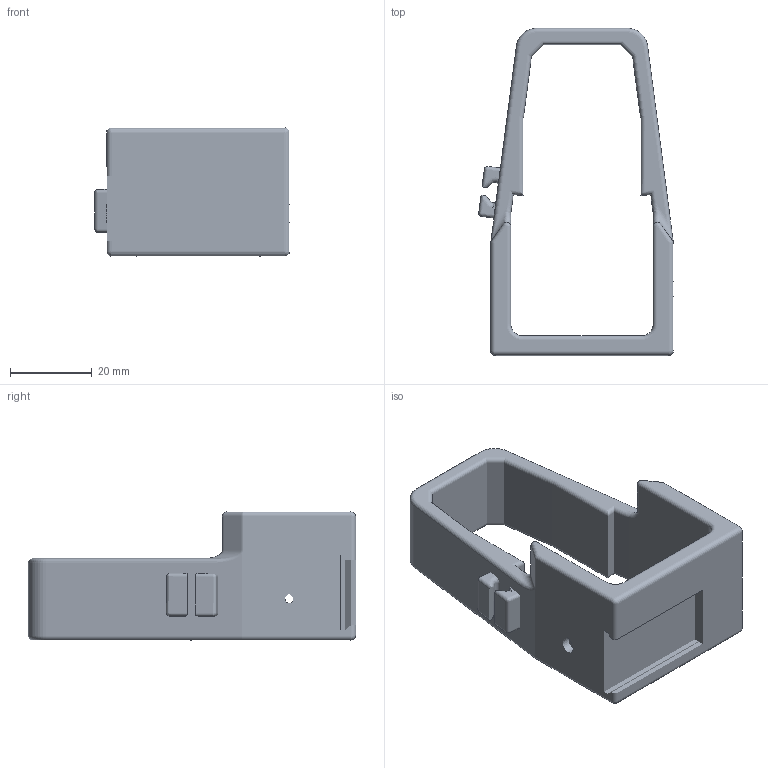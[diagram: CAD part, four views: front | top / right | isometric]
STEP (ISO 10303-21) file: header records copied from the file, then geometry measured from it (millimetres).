
FILE_DESCRIPTION(/* description */ ('STEP AP242 Edition 2','CAx-IF Rec.Pracs.---Representation and Presentation of Product Manufacturing Information (PMI)---4.0---2014-10-13','CAx-IF Rec.Pracs.---3D Tessellated Geometry---0.4---2014-09-14','2;1','CAx-IF Rec.Pracs.---User Defined Attributes---1.5---2016-08-15'),/* implementation_level */ '2;1');
FILE_NAME(/* name */ 'BambuLabA1mini_Leader_SO101 - Part 6',/* time_stamp */ '2026-11-25T15:08:23Z',/* author */ (''),/* organization */ (''),/* preprocessor_version */ 'ST-DEVELOPER v20',/* originating_system */ 'ONSHAPE BY PTC INC, 1.224',/* authorisation */ ' ');
FILE_SCHEMA (('AP242_MANAGED_MODEL_BASED_3D_ENGINEERING_MIM_LF { 1 0 10303 442 3 1 4 }'));
Length unit declared in the file: metre
Products named in the file (1): Part 6
Bounding box: 47.64 x 80.2 x 31.4 mm (x, y, z)
Surface area: 13299.9 mm2 (no closed solid volume)
Topology: 0 solids, 1 shells, 1 faces, 0 edges, 0 vertices
Faces by surface type: other 1
Entity records: 38 total; most frequent: STYLED_ITEM 2, PRESENTATION_STYLE_ASSIGNMENT 2, SURFACE_STYLE_USAGE 2, SURFACE_SIDE_STYLE 2, SURFACE_STYLE_FILL_AREA 2, FILL_AREA_STYLE 2, FILL_AREA_STYLE_COLOUR 2, DIRECTION 2
